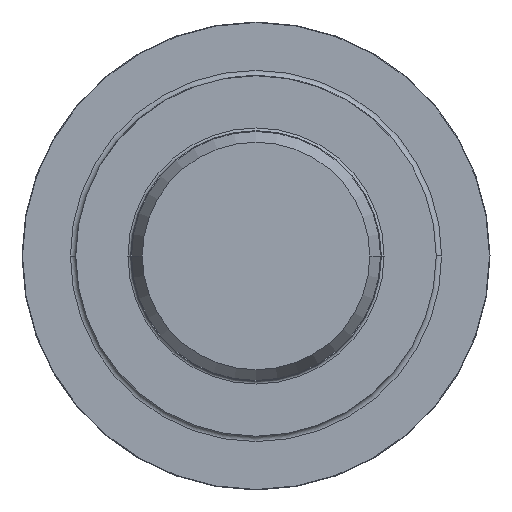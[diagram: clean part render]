
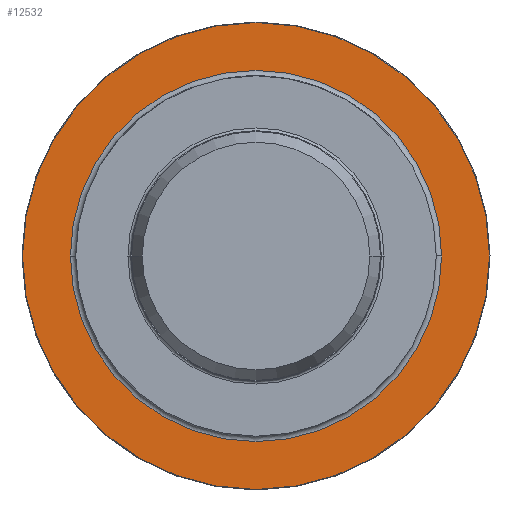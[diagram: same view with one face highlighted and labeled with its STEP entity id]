
A CAD part, left-side view. The second image highlights one B-rep face of the part: STEP entity #12532.
In plain terms, the highlighted planar face has unit normal (-1, 0, 0).
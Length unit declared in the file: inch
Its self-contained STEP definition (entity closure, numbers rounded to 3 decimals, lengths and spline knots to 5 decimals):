
#1311=CARTESIAN_POINT('',(-0.125,0.,0.));
#1312=DIRECTION('',(1.,0.,0.));
#1313=DIRECTION('',(0.,1.,0.));
#1314=AXIS2_PLACEMENT_3D('',#1311,#1312,#1313);
#1316=CARTESIAN_POINT('',(-0.125,0.,0.));
#1317=DIRECTION('',(1.,0.,0.));
#1318=DIRECTION('',(0.,-1.,0.));
#1319=AXIS2_PLACEMENT_3D('',#1316,#1317,#1318);
#1321=CARTESIAN_POINT('',(-0.125,0.,0.));
#1322=DIRECTION('',(-1.,0.,0.));
#1323=DIRECTION('',(0.,-1.,0.));
#1324=AXIS2_PLACEMENT_3D('',#1321,#1322,#1323);
#1326=CARTESIAN_POINT('',(-0.125,0.,0.));
#1327=DIRECTION('',(-1.,0.,0.));
#1328=DIRECTION('',(0.,1.,0.));
#1329=AXIS2_PLACEMENT_3D('',#1326,#1327,#1328);
#10492=CARTESIAN_POINT('',(-0.125,0.345,0.));
#10493=VERTEX_POINT('',#10492);
#10494=CARTESIAN_POINT('',(-0.125,-0.345,0.));
#10495=VERTEX_POINT('',#10494);
#10496=CARTESIAN_POINT('',(-0.125,0.434,0.));
#10497=CARTESIAN_POINT('',(-0.125,-0.434,0.));
#10498=VERTEX_POINT('',#10496);
#10499=VERTEX_POINT('',#10497);
#12517=CARTESIAN_POINT('',(-0.125,0.,0.));
#12518=DIRECTION('',(1.,0.,0.));
#12519=DIRECTION('',(0.,-1.,0.));
#12520=AXIS2_PLACEMENT_3D('',#12517,#12518,#12519);
#12521=PLANE('',#12520);
#12523=ORIENTED_EDGE('',*,*,#12522,.T.);
#12525=ORIENTED_EDGE('',*,*,#12524,.T.);
#12526=EDGE_LOOP('',(#12523,#12525));
#12527=FACE_OUTER_BOUND('',#12526,.F.);
#12528=ORIENTED_EDGE('',*,*,#12482,.T.);
#12529=ORIENTED_EDGE('',*,*,#12505,.T.);
#12530=EDGE_LOOP('',(#12528,#12529));
#12531=FACE_BOUND('',#12530,.F.);
#1315=CIRCLE('',#1314,0.434);
#1320=CIRCLE('',#1319,0.434);
#1325=CIRCLE('',#1324,0.345);
#1330=CIRCLE('',#1329,0.345);
#12482=EDGE_CURVE('',#10495,#10493,#1325,.T.);
#12505=EDGE_CURVE('',#10493,#10495,#1330,.T.);
#12522=EDGE_CURVE('',#10498,#10499,#1315,.T.);
#12524=EDGE_CURVE('',#10499,#10498,#1320,.T.);
#12532=ADVANCED_FACE('',(#12527,#12531),#12521,.F.);
